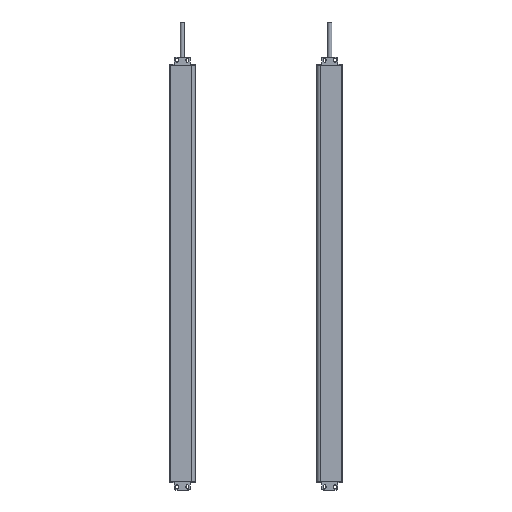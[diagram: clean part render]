
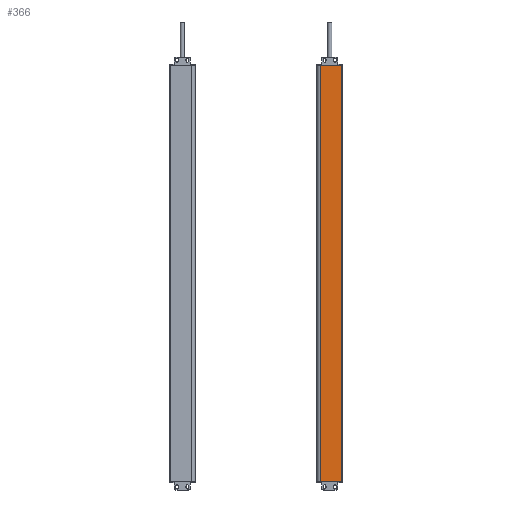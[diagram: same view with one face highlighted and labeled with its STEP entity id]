
A CAD part, front view. The second image highlights one B-rep face of the part: STEP entity #366.
In plain terms, the highlighted planar face has unit normal (0, -1, 0).
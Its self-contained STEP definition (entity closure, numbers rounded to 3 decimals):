
#123=PLANE('',#5869);
#366=ADVANCED_FACE('',(#797),#123,.T.);
#797=FACE_OUTER_BOUND('',#1073,.T.);
#1073=EDGE_LOOP('',(#1780,#1781,#1782,#1783));
#1780=ORIENTED_EDGE('',*,*,#3977,.T.);
#1781=ORIENTED_EDGE('',*,*,#3978,.F.);
#1782=ORIENTED_EDGE('',*,*,#3979,.F.);
#1783=ORIENTED_EDGE('',*,*,#3903,.T.);
#3351=VERTEX_POINT('',#8106);
#3352=VERTEX_POINT('',#8108);
#3421=VERTEX_POINT('',#8253);
#3422=VERTEX_POINT('',#8257);
#3903=EDGE_CURVE('',#3352,#3351,#4726,.T.);
#3977=EDGE_CURVE('',#3351,#3421,#4771,.T.);
#3978=EDGE_CURVE('',#3422,#3421,#4772,.T.);
#3979=EDGE_CURVE('',#3352,#3422,#4773,.T.);
#4726=LINE('',#8107,#5280);
#4771=LINE('',#8254,#5325);
#4772=LINE('',#8256,#5326);
#4773=LINE('',#8258,#5327);
#5280=VECTOR('',#6413,1.);
#5325=VECTOR('',#6522,1.);
#5326=VECTOR('',#6525,1.);
#5327=VECTOR('',#6526,1.);
#5869=AXIS2_PLACEMENT_3D('',#8259,#6527,#6528);
#6413=DIRECTION('',(1.,0.,0.));
#6522=DIRECTION('',(0.,0.,1.));
#6525=DIRECTION('',(1.,0.,0.));
#6526=DIRECTION('',(0.,0.,1.));
#6527=DIRECTION('',(0.,-1.,0.));
#6528=DIRECTION('',(-1.,0.,0.));
#8106=CARTESIAN_POINT('',(3.35,-1.3,-100.));
#8107=CARTESIAN_POINT('',(-21.15,-1.3,-100.));
#8108=CARTESIAN_POINT('',(-21.15,-1.3,-100.));
#8253=CARTESIAN_POINT('',(3.35,-1.3,382.));
#8254=CARTESIAN_POINT('',(3.35,-1.3,-100.));
#8256=CARTESIAN_POINT('',(-4122.897,-1.3,382.));
#8257=CARTESIAN_POINT('',(-21.15,-1.3,382.));
#8258=CARTESIAN_POINT('',(-21.15,-1.3,-100.));
#8259=CARTESIAN_POINT('',(-21.15,-1.3,-100.));
